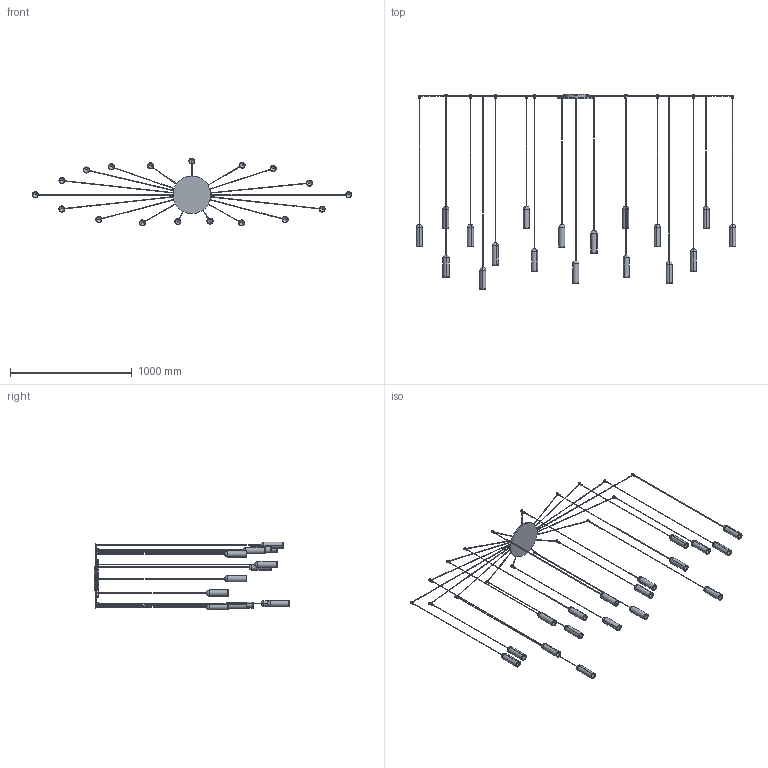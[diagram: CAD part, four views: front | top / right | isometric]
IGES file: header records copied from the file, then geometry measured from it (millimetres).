
Start section: SolidWorks IGES file using analytic representation for surfaces
Global section: file name: Y:\eforma\TECNICO\SOLIDWORKS\E-FORMA\09-LAMPADE\NANUM\02 parts\NANA5-00-NANUM_18 sospensione.IGS; native system: SolidWorks 2022; preprocessor: SolidWorks 2022; author: eforma.tech; date: 250505.164021; units: millimetre
Bounding box: 2628 x 1604.5 x 558.5 mm (x, y, z)
Volume: 3245562.5 mm3; surface area: 1702481.2 mm2
Topology: 55 solids, 55 shells, 687 faces, 1348 edges, 772 vertices
Faces by surface type: revolution 540, plane 147
